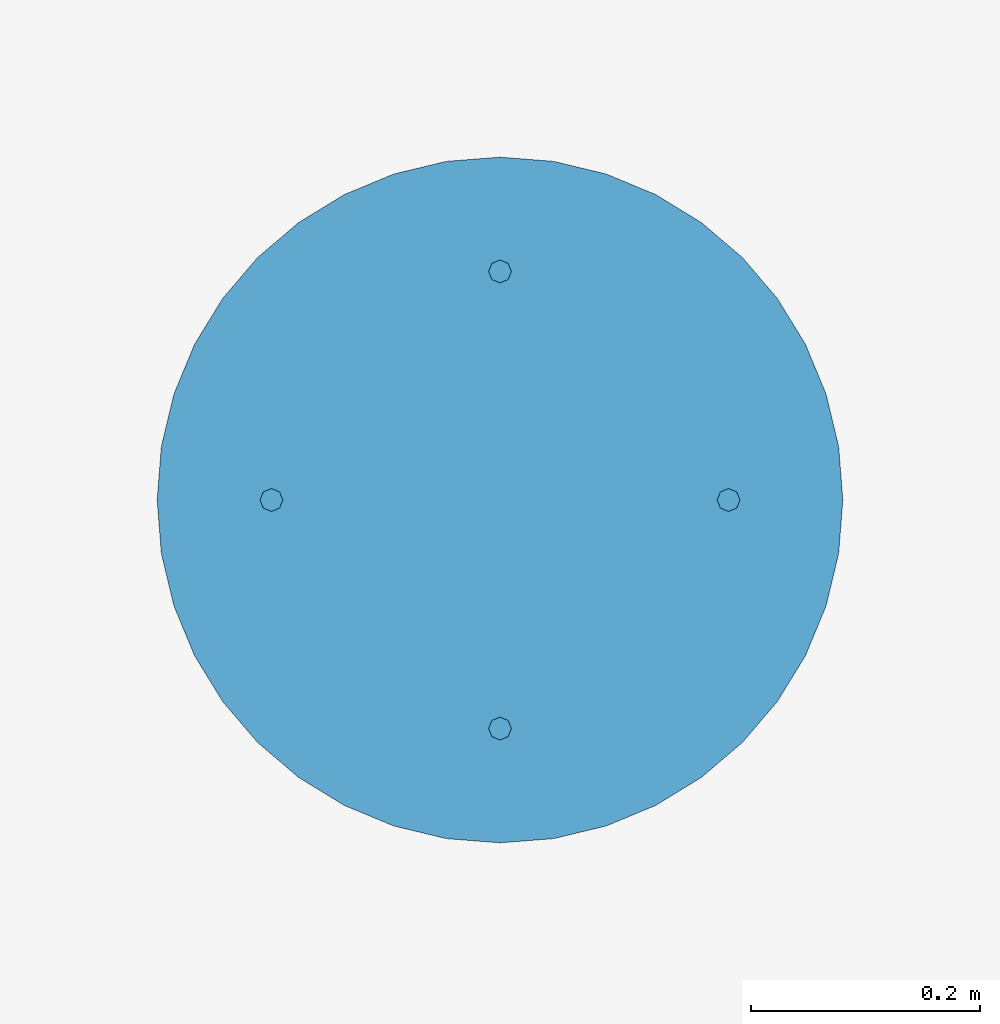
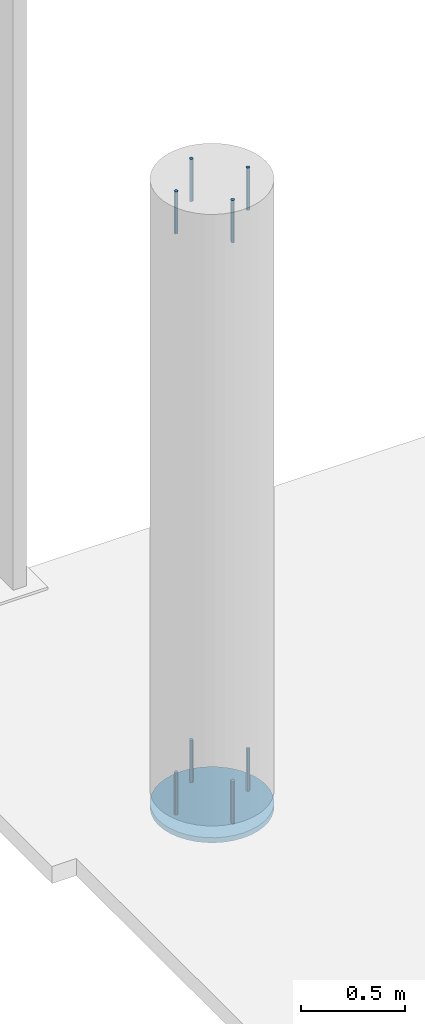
# One storey, part 3 of 6: 9 columns.
"""IFC2X3 building model written with IfcOpenShell, lengths in millimetres."""

from ifc_helpers import new_model, entity, si_unit, converted_unit, derived_unit, direction, frame, origin_with_axes, place, context, subcontext, project, spatial, faceted_brep, material, type_object, element, save


model = new_model("IFC2X3")

# Units and contexts
model_context = context("Model", 3, precision=0.01, world=frame((0.0, 4.29681676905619e-09, 0.0)), true_north=direction((6.12323399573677e-17, 1.0)))
plan_context = context("Plan", 3, precision=0.01, world=frame((0.0, 4.29681676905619e-09, 0.0)), true_north=direction((6.12323399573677e-17, 1.0)))
body_context = subcontext(model_context, "Body", "Model", "MODEL_VIEW")
ifc_project = project(units=[converted_unit("PLANEANGLEUNIT", "DEGREE", entity("IfcPositiveLengthMeasure", 0.0174532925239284), si_unit("PLANEANGLEUNIT", "RADIAN"), dimensions=[0, 0, 0, 0, 0, 0, 0]), si_unit("AREAUNIT", "SQUARE_METRE"), si_unit("LENGTHUNIT", "METRE", prefix="MILLI"), si_unit("MASSUNIT", "GRAM", prefix="KILO"), si_unit("POWERUNIT", "WATT"), si_unit("PRESSUREUNIT", "PASCAL", prefix="KILO"), si_unit("FORCEUNIT", "NEWTON", prefix="KILO"), si_unit("ELECTRICVOLTAGEUNIT", "VOLT"), si_unit("ELECTRICCURRENTUNIT", "AMPERE"), si_unit("THERMODYNAMICTEMPERATUREUNIT", "DEGREE_CELSIUS"), si_unit("TIMEUNIT", "SECOND"), si_unit("VOLUMEUNIT", "CUBIC_METRE"), derived_unit("LINEARVELOCITYUNIT", [(si_unit("LENGTHUNIT", "METRE"), 1), (si_unit("TIMEUNIT", "SECOND"), -1)]), derived_unit("VOLUMETRICFLOWRATEUNIT", [(si_unit("VOLUMEUNIT", "CUBIC_METRE"), 1), (si_unit("TIMEUNIT", "SECOND"), -1)]), derived_unit("THERMALTRANSMITTANCEUNIT", [(si_unit("POWERUNIT", "WATT"), 1), (si_unit("THERMODYNAMICTEMPERATUREUNIT", "KELVIN"), -1), (si_unit("AREAUNIT", "SQUARE_METRE"), -1)]), derived_unit("SOUNDPRESSUREUNIT", [(si_unit("PRESSUREUNIT", "PASCAL"), 1)])], contexts=[model_context, plan_context])

# Site, building, storey
site_placement = place(None, frame((0.0, -4.29681676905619e-09, 0.0), z_axis=(0.0, 0.0, 1.0), x_axis=(1.0, 0.0, 0.0)))
site = spatial("IfcSite", under=ifc_project, at=site_placement, Name="Gardermoen", CompositionType="ELEMENT")
building_placement = place(site_placement, frame((0.0, 4.29681676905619e-09, 0.0), z_axis=(0.0, 0.0, 1.0), x_axis=(1.0, 0.0, 0.0)))
building = spatial("IfcBuilding", under=site, at=building_placement, Name="THO", CompositionType="ELEMENT")
storey_placement = place(building_placement, origin_with_axes())
storey = spatial("IfcBuildingStorey", under=building, at=storey_placement, Name="Nivå F", CompositionType="ELEMENT", Elevation=0.0)

# Columns
ifc_material = material(Name="STEEL/S355")
column_type_1 = type_object("IfcColumnType", Name="D20", PredefinedType="NOTDEFINED")
for number, where, z_axis, x_axis in (
    (1, (1117000.0, 466200.0, 210060.0), (0.0, 1.0, 0.0), (0.0, 0.0, 1.0)),
    (2, (1117000.0, 466600.0, 210060.0), (0.0, 1.0, 0.0), (0.0, 0.0, 1.0)),
    (3, (1117200.0, 466400.0, 210060.0), (0.0, 1.0, 0.0), (0.0, 0.0, 1.0)),
    (4, (1116800.0, 466400.0, 210060.0), (0.0, 1.0, 0.0), (0.0, 0.0, 1.0)),
    (5, (1117000.0, 466200.0, 213485.0), (0.0, 1.0, 0.0), (0.0, 0.0, 1.0)),
    (6, (1117000.0, 466600.0, 213485.0), (0.0, 1.0, 0.0), (0.0, 0.0, 1.0)),
    (7, (1117200.0, 466400.0, 213485.0), (0.0, 1.0, 0.0), (0.0, 0.0, 1.0)),
    (8, (1116800.0, 466400.0, 213485.0), (0.0, 1.0, 0.0), (0.0, 0.0, 1.0)),
):
    element("IfcColumn", number, at=place(storey_placement, frame(where, z_axis=z_axis, x_axis=x_axis)), inside=storey, type_object=column_type_1, material=ifc_material, Name="INNSTØPNGODS", ObjectType="D20", context=body_context, shape_type="Brep", body=[
        faceted_brep([(0.0, -10.0, 0.0), (0.0, -7.07106781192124, -7.07106781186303), (250.0, -7.07106781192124, -7.07106781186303), (250.0, -10.0, 0.0), (0.0, 0.0, -10.0), (250.0, 0.0, -10.0), (0.0, 7.07106781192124, -7.07106781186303), (250.0, 7.07106781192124, -7.07106781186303), (0.0, 10.0, 0.0), (250.0, 10.0, 0.0), (0.0, 7.07106781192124, 7.07106781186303), (250.0, 7.07106781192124, 7.07106781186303), (0.0, 0.0, 10.0), (250.0, 0.0, 10.0), (0.0, -7.07106781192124, 7.07106781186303), (250.0, -7.07106781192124, 7.07106781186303)], [[[0, 1, 2, 3]], [[1, 4, 5, 2]], [[4, 6, 7, 5]], [[6, 8, 9, 7]], [[8, 10, 11, 9]], [[10, 12, 13, 11]], [[12, 14, 15, 13]], [[14, 0, 3, 15]], [[5, 7, 9, 11, 13, 15, 3, 2]], [[14, 12, 10, 8, 6, 4, 1, 0]]]),
    ])
column_type_2 = type_object("IfcColumnType", Name="D600", PredefinedType="NOTDEFINED")
column_placement = place(storey_placement, frame((1117000.0, 466400.0, 210030.0), z_axis=(0.0, 1.0, 0.0), x_axis=(0.0, 0.0, 1.0)))
element("IfcColumn", 9, at=column_placement, inside=storey, type_object=column_type_2, material=ifc_material, Name="INNSTØPNGODS", ObjectType="D600", context=body_context, shape_type="Brep", body=[
    faceted_brep([(0.0, -300.0, 0.0), (0.0, -296.306502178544, -46.930339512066), (30.0, -296.306502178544, -46.930339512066), (30.0, -300.0, 0.0), (0.0, -285.316954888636, -92.7050983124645), (30.0, -285.316954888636, -92.7050983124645), (0.0, -267.301957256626, -136.197149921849), (30.0, -267.301957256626, -136.197149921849), (0.0, -242.705098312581, -176.335575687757), (30.0, -242.705098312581, -176.335575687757), (0.0, -212.132034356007, -212.132034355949), (30.0, -212.132034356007, -212.132034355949), (0.0, -176.335575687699, -242.705098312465), (30.0, -176.335575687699, -242.705098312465), (0.0, -136.197149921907, -267.30195725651), (30.0, -136.197149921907, -267.30195725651), (0.0, -92.705098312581, -285.31695488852), (30.0, -92.705098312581, -285.31695488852), (0.0, -46.9303395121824, -296.306502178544), (30.0, -46.9303395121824, -296.306502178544), (0.0, 0.0, -300.0), (30.0, 0.0, -300.0), (0.0, 46.9303395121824, -296.306502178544), (30.0, 46.9303395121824, -296.306502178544), (0.0, 92.705098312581, -285.31695488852), (30.0, 92.705098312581, -285.31695488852), (0.0, 136.197149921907, -267.30195725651), (30.0, 136.197149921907, -267.30195725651), (0.0, 176.335575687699, -242.705098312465), (30.0, 176.335575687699, -242.705098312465), (0.0, 212.132034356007, -212.132034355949), (30.0, 212.132034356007, -212.132034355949), (0.0, 242.705098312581, -176.335575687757), (30.0, 242.705098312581, -176.335575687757), (0.0, 267.301957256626, -136.197149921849), (30.0, 267.301957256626, -136.197149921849), (0.0, 285.316954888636, -92.7050983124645), (30.0, 285.316954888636, -92.7050983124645), (0.0, 296.306502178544, -46.930339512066), (30.0, 296.306502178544, -46.930339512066), (0.0, 300.0, 0.0), (30.0, 300.0, 0.0), (0.0, 296.306502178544, 46.930339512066), (30.0, 296.306502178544, 46.930339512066), (0.0, 285.316954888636, 92.7050983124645), (30.0, 285.316954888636, 92.7050983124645), (0.0, 267.301957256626, 136.197149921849), (30.0, 267.301957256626, 136.197149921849), (0.0, 242.705098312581, 176.335575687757), (30.0, 242.705098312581, 176.335575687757), (0.0, 212.132034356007, 212.132034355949), (30.0, 212.132034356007, 212.132034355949), (0.0, 176.335575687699, 242.705098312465), (30.0, 176.335575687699, 242.705098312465), (0.0, 136.197149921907, 267.30195725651), (30.0, 136.197149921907, 267.30195725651), (0.0, 92.705098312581, 285.31695488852), (30.0, 92.705098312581, 285.31695488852), (0.0, 46.9303395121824, 296.306502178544), (30.0, 46.9303395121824, 296.306502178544), (0.0, 0.0, 300.0), (30.0, 0.0, 300.0), (0.0, -46.9303395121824, 296.306502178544), (30.0, -46.9303395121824, 296.306502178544), (0.0, -92.705098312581, 285.31695488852), (30.0, -92.705098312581, 285.31695488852), (0.0, -136.197149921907, 267.30195725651), (30.0, -136.197149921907, 267.30195725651), (0.0, -176.335575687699, 242.705098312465), (30.0, -176.335575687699, 242.705098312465), (0.0, -212.132034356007, 212.132034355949), (30.0, -212.132034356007, 212.132034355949), (0.0, -242.705098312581, 176.335575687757), (30.0, -242.705098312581, 176.335575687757), (0.0, -267.301957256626, 136.197149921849), (30.0, -267.301957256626, 136.197149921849), (0.0, -285.316954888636, 92.7050983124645), (30.0, -285.316954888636, 92.7050983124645), (0.0, -296.306502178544, 46.930339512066), (30.0, -296.306502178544, 46.930339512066)], [[[0, 1, 2, 3]], [[1, 4, 5, 2]], [[4, 6, 7, 5]], [[6, 8, 9, 7]], [[8, 10, 11, 9]], [[10, 12, 13, 11]], [[12, 14, 15, 13]], [[14, 16, 17, 15]], [[16, 18, 19, 17]], [[18, 20, 21, 19]], [[20, 22, 23, 21]], [[22, 24, 25, 23]], [[24, 26, 27, 25]], [[26, 28, 29, 27]], [[28, 30, 31, 29]], [[30, 32, 33, 31]], [[32, 34, 35, 33]], [[34, 36, 37, 35]], [[36, 38, 39, 37]], [[38, 40, 41, 39]], [[40, 42, 43, 41]], [[42, 44, 45, 43]], [[44, 46, 47, 45]], [[46, 48, 49, 47]], [[48, 50, 51, 49]], [[50, 52, 53, 51]], [[52, 54, 55, 53]], [[54, 56, 57, 55]], [[56, 58, 59, 57]], [[58, 60, 61, 59]], [[60, 62, 63, 61]], [[62, 64, 65, 63]], [[64, 66, 67, 65]], [[66, 68, 69, 67]], [[68, 70, 71, 69]], [[70, 72, 73, 71]], [[72, 74, 75, 73]], [[74, 76, 77, 75]], [[76, 78, 79, 77]], [[78, 0, 3, 79]], [[5, 7, 9, 11, 13, 15, 17, 19, 21, 23, 25, 27, 29, 31, 33, 35, 37, 39, 41, 43, 45, 47, 49, 51, 53, 55, 57, 59, 61, 63, 65, 67, 69, 71, 73, 75, 77, 79, 3, 2]], [[78, 76, 74, 72, 70, 68, 66, 64, 62, 60, 58, 56, 54, 52, 50, 48, 46, 44, 42, 40, 38, 36, 34, 32, 30, 28, 26, 24, 22, 20, 18, 16, 14, 12, 10, 8, 6, 4, 1, 0]]]),
])

save(model, "model.ifc")
